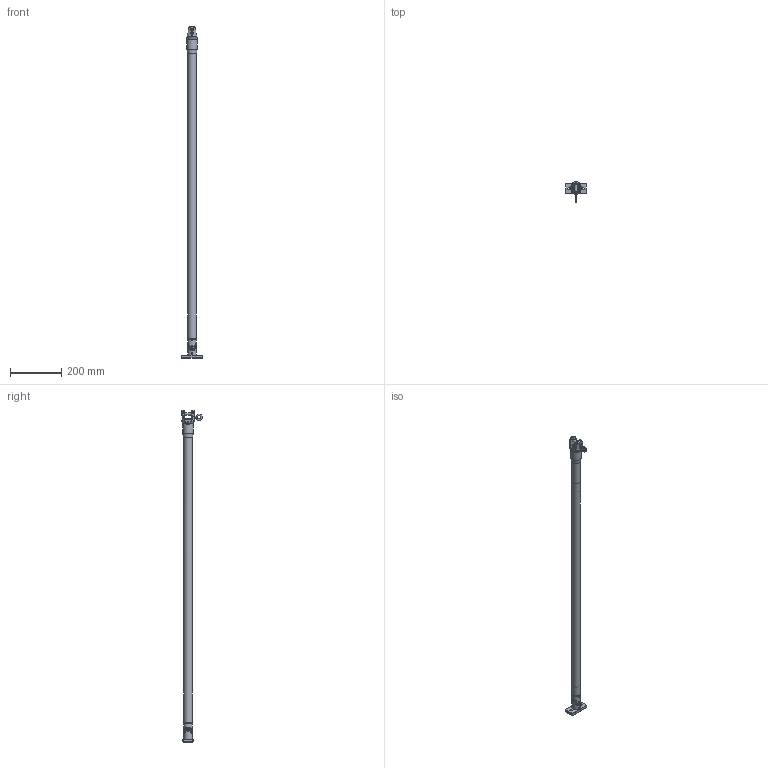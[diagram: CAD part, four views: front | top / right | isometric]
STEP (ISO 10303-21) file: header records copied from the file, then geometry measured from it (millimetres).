
FILE_DESCRIPTION( ( 'Unknown' ), '1' );
FILE_NAME( 'D:/dogabe/Industrie/Assemblage 2009/09-50-3469 doga DMF70/DMF 70 LONG 3000/4-1200819_bras DMFI 70_3000_3D/4-1200814_bras DMFI 70_3000_sans pince.stp', 'Unknown', ( 'Unknown' ), ( 'Unknown' ), 'PSStep 14.0', 'Unknown', ' ' );
FILE_SCHEMA( ( 'AUTOMOTIVE_DESIGN { 1 0 10303 214 1 1 1 1 }' ) );
Length unit declared in the file: millimetre
Products named in the file (20): tube 21  x 24 assemblé long 3000; Tube 24 x 21 DMF 70 long 3000; bague dia 18.3x20.8; bague dia.24.2x27.85; Asm Cardan L65 modifié pour dmf 70; Cardan 1 L65 modifié DMF 70; cardan 3 L65 modifié DMF70; Cardan 2 L65; jonc dia.18 assemblé long 3000; jonc dia 18 DMF70 long 3000; tube 32x28 assemblé long 3000; Tube 32x28 DMF70 long 3000; Assem1; plaque de fixation dmf 70; Chape pour pince; axe dia 8 mm; Piton M6 DMF 70; Anneau élastique pour arbre 6; axe chape; butée
Assembly tree (23 placements, depth 3):
  Assem1
    plaque de fixation dmf 70
    Chape pour pince
    axe dia 8 mm
    Piton M6 DMF 70
    Anneau élastique pour arbre 6  x2
    axe chape
    butée
    Asm Cardan L65 modifié pour dmf 70
      Cardan 1 L65 modifié DMF 70
      cardan 3 L65 modifié DMF70
      Cardan 2 L65
    jonc dia.18 assemblé long 3000
      jonc dia 18 DMF70 long 3000
      bague dia 18.3x20.8
    tube 21  x 24 assemblé long 3000
      Tube 24 x 21 DMF 70 long 3000
      bague dia 18.3x20.8
      bague dia.24.2x27.85  x2
    tube 32x28 assemblé long 3000
      Tube 32x28 DMF70 long 3000
      bague dia.24.2x27.85
Bounding box: 80 x 79.98 x 1291.5 mm (x, y, z)
Volume: 720063.5 mm3; surface area: 520295.7 mm2
Topology: 19 solids, 19 shells, 287 faces, 674 edges, 425 vertices
Faces by surface type: plane 123, cylinder 114, cone 29, torus 10, bspline 8, sphere 3
Full cylindrical faces by diameter (mm): 1 x4, 3.242 x2, 4.917 x1, 5.2 x6, 5.7 x2, 6 x8, 6.1 x2, 8 x8, 8.5 x2, 10 x5, 15 x1, 16 x2, 18 x4, 18.3 x2, 20.8 x2, 21 x1, 24 x1, 24.2 x3, 27.5 x1, 27.85 x3, 28 x2, 30.3 x1, 32 x5, 40 x1
Entity records: 12081 total; most frequent: CARTESIAN_POINT 4829, DIRECTION 1144, ORIENTED_EDGE 956, AXIS2_PLACEMENT_3D 484, EDGE_CURVE 478, EDGE_LOOP 428, VERTEX_POINT 348, FACE_OUTER_BOUND 327
